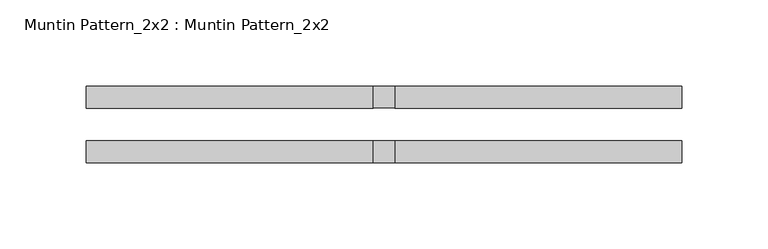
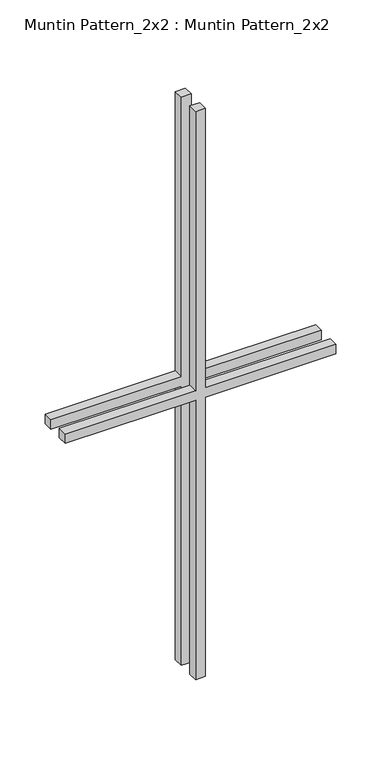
"""IFC4 building model written with IfcOpenShell, lengths in millimetres: proxy geometry, Muntin Pattern_2x2 : Muntin Pattern_2x2."""

from ifc_helpers import new_model, si_unit, frame, origin, place, context, project, spatial, polyline, outline, extrude, source, transform, mapped, element, save


def muntin_pattern_2x2_muntin_pattern_2x2_71baba7b(model_context):
    return source(origin(), model_context, "Body", "SweptSolid", [
        extrude(outline(polyline([(390.525, -6.35), (390.525, -173.0375), (377.825, -173.0375), (377.825, -6.35), (0.0, -6.35), (0.0, 6.35), (377.825, 6.35), (377.825, 173.0375), (390.525, 173.0375), (390.525, 6.35), (768.35, 6.35), (768.35, -6.35), (390.525, -6.35)])), frame((0.0, -22.225, 0.0), z_axis=(0.0, 1.0, 0.0), x_axis=(0.0, 0.0, 1.0)), (0.0, 0.0, 1.0), 12.7),
        extrude(outline(polyline([(390.525, -6.35), (390.525, -173.0375), (377.825, -173.0375), (377.825, -6.35), (0.0, -6.35), (0.0, 6.35), (377.825, 6.35), (377.825, 173.0375), (390.525, 173.0375), (390.525, 6.35), (768.35, 6.35), (768.35, -6.35), (390.525, -6.35)])), frame((0.0, 9.525, 0.0), z_axis=(0.0, 1.0, 0.0), x_axis=(0.0, 0.0, 1.0)), (0.0, 0.0, 1.0), 12.7),
    ])


if __name__ == "__main__":
    model = new_model("IFC4")
    model_context = context("Model", 3, world=origin())
    ifc_project = project(units=[si_unit("LENGTHUNIT", "METRE", prefix="MILLI")], contexts=[model_context])
    site = spatial("IfcSite", under=ifc_project)
    building = spatial("IfcBuilding", under=site)
    placement = place(None, origin())
    muntin_pattern_2x2_muntin_pattern_2x2_shape = muntin_pattern_2x2_muntin_pattern_2x2_71baba7b(model_context)
    element("IfcBuildingElementProxy", 1, Name="Muntin Pattern_2x2 : Muntin Pattern_2x2", ObjectType="Muntin Pattern_2x2 : Muntin Pattern_2x2", at=placement, inside=building, context=model_context, shape_type="MappedRepresentation", body=[
        mapped(muntin_pattern_2x2_muntin_pattern_2x2_shape, transform((0.0, 0.0, 0.0), x_axis=(1.0, 0.0, 0.0), y_axis=(0.0, 1.0, 0.0), z_axis=(0.0, 0.0, 1.0))),
    ])
    save(model, "model.ifc")
